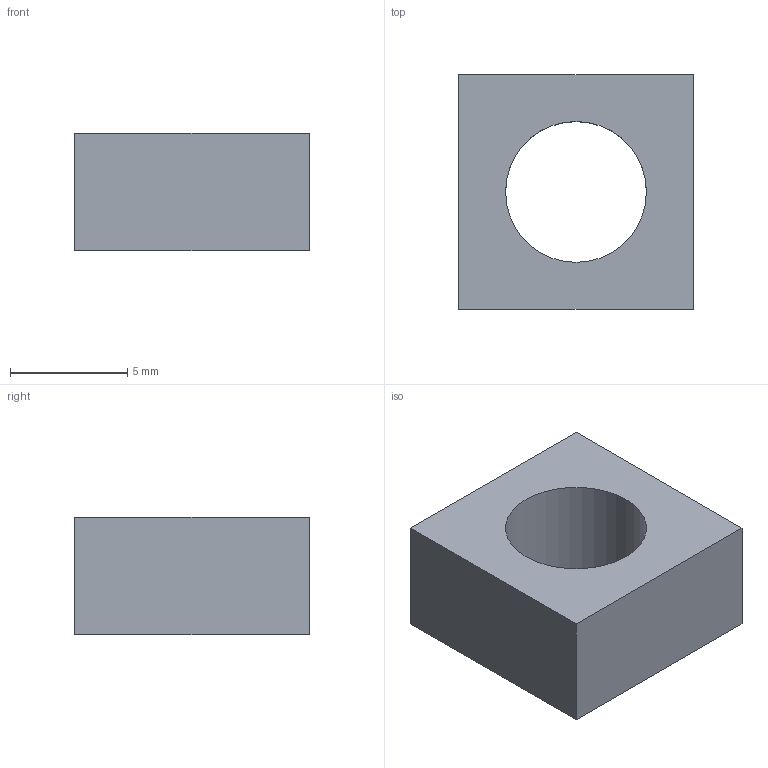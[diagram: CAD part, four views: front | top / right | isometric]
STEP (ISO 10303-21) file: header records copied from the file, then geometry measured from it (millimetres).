
FILE_DESCRIPTION( ( 'STEP AP203' ), '1' );
FILE_NAME( 'C:/NSM-06-6.stp', '2013-10-20T23:52:34', ( ' ' ), ( ' ' ), 'XStep 1.0', ' ', ' ' );
FILE_SCHEMA( ( 'CONFIG_CONTROL_DESIGN' ) );
Length unit declared in the file: metre
Products named in the file (1): 1
Bounding box: 10 x 10 x 5 mm (x, y, z)
Volume: 357.5 mm3; surface area: 438 mm2
Topology: 1 solids, 1 shells, 7 faces, 15 edges, 10 vertices
Faces by surface type: bspline 7
Entity records: 243 total; most frequent: CARTESIAN_POINT 63, ORIENTED_EDGE 28, DIRECTION 18, EDGE_CURVE 14, LINE 12, VECTOR 12, EDGE_LOOP 10, VERTEX_POINT 10
